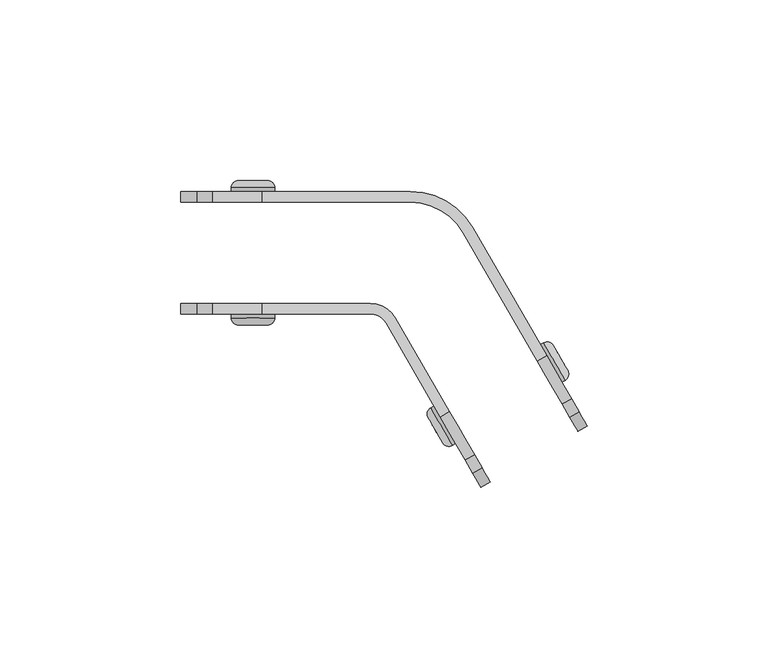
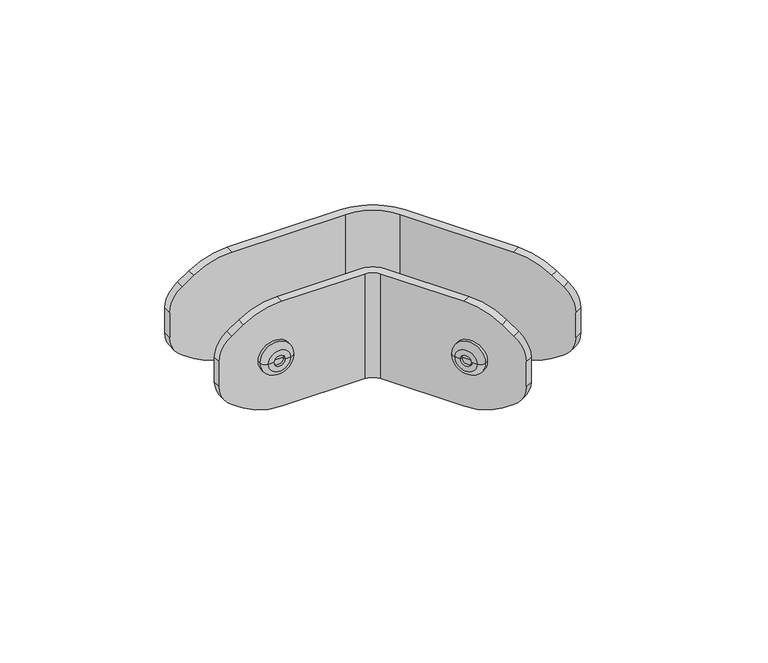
"""IFC4 building model written with IfcOpenShell, lengths in millimetres: furniture geometry, DBLTD_Sixteen3_PrivacyScreens_Artus_Bracket : 120° Corner Link."""

import ifcopenshell
import ifcopenshell.guid

model = None  # the IFC model being written
_history = None  # IfcOwnerHistory: only IFC2X3 demands one
_inside = {}  # id of a spatial element -> (the spatial element, [elements in it])
_under = {}  # id of a project, library or spatial element -> (it, [spatial elements below it])
_declared = {}  # id of a project -> (the project, [libraries it declares])
_typed = {}  # id of a type object -> (the type object, [elements of that type])
_made_of = {}  # id of a material, layer set ... -> (it, [elements and type objects made of it])


def new_model(schema):
    """Start an empty IFC model of exactly this schema.

    Asked for "IFC4X3", IfcOpenShell would pick the latest addendum, in which some entities
    have other attributes; the version numbers below select the first issue.
    IFC2X3 requires an IfcOwnerHistory on every rooted entity: one is made here for all.
    """
    global model, _history
    if schema == "IFC4X3":
        model = ifcopenshell.file(schema_version=(4, 3, 0, 0))
    else:
        model = ifcopenshell.file(schema=schema)
    _inside.clear()
    _under.clear()
    _declared.clear()
    _typed.clear()
    _made_of.clear()
    _history = None
    if model.schema == "IFC2X3":
        org = make("IfcOrganization", Name="unknown")
        user = make(
            "IfcPersonAndOrganization",
            ThePerson=make("IfcPerson", FamilyName="unknown"),
            TheOrganization=org,
        )
        app = make(
            "IfcApplication",
            ApplicationDeveloper=org,
            Version="unknown",
            ApplicationFullName="unknown",
            ApplicationIdentifier="unknown",
        )
        _history = make(
            "IfcOwnerHistory",
            OwningUser=user,
            OwningApplication=app,
            ChangeAction="ADDED",
            CreationDate=0,
        )
    return model


def make(cls, **values):
    """One entity of the class cls with the attributes given. An attribute that is None is left unset."""
    return model.create_entity(
        cls, **{name: value for name, value in values.items() if value is not None}
    )


def rooted(cls, **values):
    """An entity with a GlobalId (a new one), such as an element, a storey or a relation."""
    return make(cls, GlobalId=ifcopenshell.guid.new(), OwnerHistory=_history, **values)


def si_unit(unit_type, name, prefix=None):
    """IfcSIUnit, for example si_unit("LENGTHUNIT", "METRE", prefix="MILLI")."""
    return make("IfcSIUnit", UnitType=unit_type, Prefix=prefix, Name=name)


def assignment(units):
    """IfcUnitAssignment: the units of a project."""
    return None if units is None else make("IfcUnitAssignment", Units=units)


def point(xyz):
    """IfcCartesianPoint."""
    return None if xyz is None else make("IfcCartesianPoint", Coordinates=xyz)


def direction(xyz):
    """IfcDirection."""
    return None if xyz is None else make("IfcDirection", DirectionRatios=xyz)


def frame(location, z_axis=None, x_axis=None):
    """IfcAxis2Placement3D, a coordinate frame: its origin and axes. An axis left out is left unset."""
    return make(
        "IfcAxis2Placement3D",
        Location=point(location),
        Axis=direction(z_axis),
        RefDirection=direction(x_axis),
    )


def origin():
    """The frame at (0, 0, 0) with its axes left unset."""
    return frame((0.0, 0.0, 0.0))


def place(relative_to, where):
    """IfcLocalPlacement: puts the frame where relative to a parent placement (None: the world)."""
    return make(
        "IfcLocalPlacement", PlacementRelTo=relative_to, RelativePlacement=where
    )


def context(
    kind, dimensions, precision=None, world=None, true_north=None, identifier=None
):
    """IfcGeometricRepresentationContext, for example the 3D "Model" context."""
    return make(
        "IfcGeometricRepresentationContext",
        ContextIdentifier=identifier,
        ContextType=kind,
        CoordinateSpaceDimension=dimensions,
        Precision=precision,
        WorldCoordinateSystem=world,
        TrueNorth=true_north,
    )


def project(units=None, contexts=None):
    """IfcProject with its units and contexts."""
    return rooted(
        "IfcProject",
        Name="project",
        RepresentationContexts=contexts,
        UnitsInContext=assignment(units),
    )


def spatial(cls, under=None, at=None, **own):
    """A site, building, storey or space (cls), placed at a placement, below another one or the project."""
    s = rooted(cls, ObjectPlacement=at, **own)
    if under is not None:
        _under.setdefault(under.id(), (under, []))[1].append(s)
    return s


def polyline(points):
    """IfcPolyline through the points."""
    return make("IfcPolyline", Points=[point(p) for p in points])


def circle_curve(where, radius):
    """IfcCircle in the frame where."""
    return make("IfcCircle", Position=where, Radius=radius)


def ellipse_curve(where, semi_axis1, semi_axis2):
    """IfcEllipse in the frame where."""
    return make(
        "IfcEllipse", Position=where, SemiAxis1=semi_axis1, SemiAxis2=semi_axis2
    )


def trimmed(basis, trim1, trim2, sense, master):
    """IfcTrimmedCurve: the piece of a basis curve between two trims."""
    return make(
        "IfcTrimmedCurve",
        BasisCurve=basis,
        Trim1=trim1,
        Trim2=trim2,
        SenseAgreement=sense,
        MasterRepresentation=master,
    )


def shape(context_of_items, identifier, shape_type, items):
    """IfcShapeRepresentation: the items that make up one representation, for example the "Body"."""
    return make(
        "IfcShapeRepresentation",
        ContextOfItems=context_of_items,
        RepresentationIdentifier=identifier,
        RepresentationType=shape_type,
        Items=items,
    )


def source(mapping_origin, context_of_items, identifier, shape_type, items):
    """IfcRepresentationMap: a shape defined once, which mapped items show again and again."""
    return make(
        "IfcRepresentationMap",
        MappingOrigin=mapping_origin,
        MappedRepresentation=shape(context_of_items, identifier, shape_type, items),
    )


def transform(
    local_origin,
    x_axis=None,
    y_axis=None,
    z_axis=None,
    scale=None,
    scale2=None,
    scale3=None,
    uniform=True,
):
    """IfcCartesianTransformationOperator3D, or its non-uniform kind. x_axis, y_axis, z_axis: its Axis1, 2, 3."""
    if uniform:
        return make(
            "IfcCartesianTransformationOperator3D",
            Axis1=direction(x_axis),
            Axis2=direction(y_axis),
            LocalOrigin=point(local_origin),
            Scale=scale,
            Axis3=direction(z_axis),
        )
    return make(
        "IfcCartesianTransformationOperator3DnonUniform",
        Axis1=direction(x_axis),
        Axis2=direction(y_axis),
        LocalOrigin=point(local_origin),
        Scale=scale,
        Axis3=direction(z_axis),
        Scale2=scale2,
        Scale3=scale3,
    )


def mapped(mapping_source, mapping_target):
    """IfcMappedItem: shows the shape of a source again, moved by a transform."""
    return make(
        "IfcMappedItem", MappingSource=mapping_source, MappingTarget=mapping_target
    )


def made_of(thing, what):
    """Note that an element or type object is made of a material, layer set ...; save() writes the relation."""
    if what is not None:
        _made_of.setdefault(what.id(), (what, []))[1].append(thing)
    return thing


def element(
    cls,
    number,
    at=None,
    inside=None,
    cuts=None,
    type_object=None,
    material=None,
    context=None,
    identifier="Body",
    shape_type=None,
    held_by="IfcProductDefinitionShape",
    body=None,
    shapes=None,
    **own,
):
    """One element of the class cls, such as IfcWall. Its Tag is "e" and its number.

    at: its placement. inside: the storey or other place that contains it. cuts: it is an
    opening in that element (IfcRelVoidsElement). A single representation is given by context,
    identifier, shape_type and body (its items); several are given by shapes. held_by: the class
    of the entity that holds the representations. save() writes the other relations.
    """
    e = rooted(cls, Tag="e%d" % number, ObjectPlacement=at, **own)
    if body is not None:
        shapes = [shape(context, identifier, shape_type, body)]
    if shapes is not None:
        e.Representation = make(held_by, Representations=shapes)
    if inside is not None:
        _inside.setdefault(inside.id(), (inside, []))[1].append(e)
    if cuts is not None:
        rooted(
            "IfcRelVoidsElement", RelatingBuildingElement=cuts, RelatedOpeningElement=e
        )
    if type_object is not None:
        _typed.setdefault(type_object.id(), (type_object, []))[1].append(e)
    return made_of(e, material)


def aggregate(whole, parts):
    """IfcRelAggregates: a whole, such as a stair, and the parts it consists of."""
    return rooted("IfcRelAggregates", RelatingObject=whole, RelatedObjects=parts)


def save(model, path):
    """Write the relations noted so far, then the file.

    IfcRelAggregates (storeys below a building ...), IfcRelContainedInSpatialStructure (elements
    in a storey), IfcRelDefinesByType, IfcRelAssociatesMaterial and IfcRelDeclares: one each for
    every whole, place, type object, material and project.
    """
    for whole, parts in _under.values():
        aggregate(whole, parts)
    for where, things in _inside.values():
        rooted(
            "IfcRelContainedInSpatialStructure",
            RelatedElements=things,
            RelatingStructure=where,
        )
    for kind, things in _typed.values():
        rooted("IfcRelDefinesByType", RelatedObjects=things, RelatingType=kind)
    for what, things in _made_of.values():
        rooted("IfcRelAssociatesMaterial", RelatedObjects=things, RelatingMaterial=what)
    for by, libraries in _declared.values():
        rooted("IfcRelDeclares", RelatingContext=by, RelatedDefinitions=libraries)
    model.write(path)


def plane_surface(at):
    """IfcPlane: the flat surface through the origin of the frame at, square to its z axis."""
    return make("IfcPlane", Position=at)


def cylinder_surface(at, radius):
    """IfcCylindricalSurface: all points at the distance radius from the z axis of the frame at."""
    return make("IfcCylindricalSurface", Position=at, Radius=radius)


def revolved_surface(curve, axis_point, axis_direction):
    """IfcSurfaceOfRevolution: the curve turned about the line through axis_point along axis_direction."""
    return make(
        "IfcSurfaceOfRevolution",
        SweptCurve=make("IfcArbitraryOpenProfileDef", ProfileType="CURVE", Curve=curve),
        AxisPosition=make("IfcAxis1Placement", Location=point(axis_point), Axis=direction(axis_direction)),
    )


def advanced_brep(points, edges, surfaces, faces):
    """IfcAdvancedBrep: a solid bounded by faces that lie on surfaces and meet in shared edges.

    An edge is (start, end): straight between two places in points (the first is 0);
    or (start, end, curve); or (start, end, curve, False) where it runs against its curve.
    A face is (place in surfaces, loops), or (place, loops, False) where it looks against
    its surface's normal. A loop lists edges by number (the first is 1), with a minus sign
    where the edge is run from its end to its start. The first loop is the outer one.
    """
    corners = [point(p) for p in points]
    vertices = [make("IfcVertexPoint", VertexGeometry=c) for c in corners]
    made = []
    for start, end, *more in edges:
        made.append(
            make(
                "IfcEdgeCurve",
                EdgeStart=vertices[start],
                EdgeEnd=vertices[end],
                EdgeGeometry=more[0] if more else make("IfcPolyline", Points=[corners[start], corners[end]]),
                SameSense=more[1] if len(more) > 1 else True,
            )
        )
    hull = []
    for where, loops, *sense in faces:
        bounds = []
        for j, loop in enumerate(loops):
            ring = [make("IfcOrientedEdge", EdgeElement=made[abs(k) - 1], Orientation=k > 0) for k in loop]
            bounds.append(
                make(
                    "IfcFaceOuterBound" if j == 0 else "IfcFaceBound",
                    Bound=make("IfcEdgeLoop", EdgeList=ring),
                    Orientation=True,
                )
            )
        hull.append(make("IfcAdvancedFace", Bounds=bounds, FaceSurface=surfaces[where], SameSense=sense[0] if sense else True))
    return make("IfcAdvancedBrep", Outer=make("IfcClosedShell", CfsFaces=hull))


def furniture_fb40049b(model_context):
    return source(origin(), model_context, "Body", "AdvancedBrep", [
        advanced_brep(
        [(26.5, -845.4352448, 100.0), (27.3537451, -844.9423348, 100.0), (33.3537451, -855.3346397, 100.0), (32.5, -855.8275496, 100.0), (29.5, -850.6313972, 100.0), (30.2320508, -847.8993464, 100.0), (31.2320508, -849.6313972, 100.0), (32.2320508, -851.363448, 100.0), (31.0980762, -847.3993464, 100.0), (33.0980762, -850.863448, 100.0), (30.1051663, -845.6795759, 100.0), (34.0909862, -852.5832185, 100.0)],
        [
            (0, 1),
            (1, 2, circle_curve(frame((30.3537451, -850.1384873, 100.0), z_axis=(-0.866025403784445, -0.49999999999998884, 0.0), x_axis=(0.49999999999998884, -0.866025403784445, 0.0)), 6.0)),
            (2, 3),
            (3, 0, circle_curve(frame((29.5, -850.6313972, 100.0), z_axis=(0.866025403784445, 0.49999999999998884, 0.0), x_axis=(0.49999999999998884, -0.866025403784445, 0.0)), 6.0)),
            (2, 1, circle_curve(frame((30.3537451, -850.1384873, 100.0), z_axis=(-0.866025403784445, -0.49999999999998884, 0.0), x_axis=(0.49999999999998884, -0.866025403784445, 0.0)), 6.0)),
            (0, 3, circle_curve(frame((29.5, -850.6313972, 100.0), z_axis=(0.866025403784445, 0.49999999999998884, 0.0), x_axis=(0.49999999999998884, -0.866025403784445, 0.0)), 6.0)),
            (4, 0),
            (3, 4),
            (5, 6),
            (6, 7),
            (7, 5, circle_curve(frame((31.2320508, -849.6313972, 100.0), z_axis=(0.866025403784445, 0.49999999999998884, 0.0), x_axis=(0.49999999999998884, -0.866025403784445, 0.0)), 2.0)),
            (5, 7, circle_curve(frame((31.2320508, -849.6313972, 100.0), z_axis=(0.866025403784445, 0.49999999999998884, 0.0), x_axis=(0.49999999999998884, -0.866025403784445, 0.0)), 2.0)),
            (8, 5),
            (7, 9),
            (9, 8, circle_curve(frame((32.0980762, -849.1313972, 100.0), z_axis=(0.866025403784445, 0.49999999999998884, 0.0), x_axis=(0.49999999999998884, -0.866025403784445, 0.0)), 2.0)),
            (8, 9, circle_curve(frame((32.0980762, -849.1313972, 100.0), z_axis=(0.866025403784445, 0.49999999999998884, 0.0), x_axis=(0.49999999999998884, -0.866025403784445, 0.0)), 2.0)),
            (10, 8),
            (9, 11),
            (11, 10, circle_curve(frame((32.0980762, -849.1313972, 100.0), z_axis=(0.866025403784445, 0.49999999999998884, 0.0), x_axis=(0.49999999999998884, -0.866025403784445, 0.0)), 3.9858199)),
            (10, 11, circle_curve(frame((32.0980762, -849.1313972, 100.0), z_axis=(0.866025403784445, 0.49999999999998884, 0.0), x_axis=(0.49999999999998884, -0.866025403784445, 0.0)), 3.9858199)),
            (1, 10, circle_curve(frame((28.3608351, -846.686666, 100.0), z_axis=(0.0, 0.0, -1.0), x_axis=(0.4999999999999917, -0.8660254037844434, 0.0)), 2.0141801)),
            (11, 2, circle_curve(frame((32.346655, -853.5903085, 100.0), z_axis=(0.0, 0.0, -1.0), x_axis=(-0.499999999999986, 0.8660254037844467, 0.0)), 2.0141801)),
        ],
        [
            cylinder_surface(frame((30.7336307, -849.9191602, 100.0), z_axis=(-0.866025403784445, -0.49999999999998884, 0.0), x_axis=(0.49999999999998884, -0.866025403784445, 0.0)), 6.0),
            plane_surface(frame((29.5, -850.6313972, 100.0), z_axis=(-0.866025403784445, -0.49999999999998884, 0.0), x_axis=(0.49999999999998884, -0.866025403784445, 0.0))),
            plane_surface(frame((31.2320508, -849.6313972, 100.0), z_axis=(0.866025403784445, 0.49999999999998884, 0.0), x_axis=(0.49999999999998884, -0.866025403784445, 0.0))),
            revolved_surface(polyline([(32.23205080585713, -851.3634480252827, 100.0), (33.09807621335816, -850.8634480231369, 100.0)]), (30.7336307, -849.9191602, 100.0), (-0.866025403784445, -0.49999999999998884, 0.0)),
            plane_surface(frame((32.0980762, -849.1313972, 100.0), z_axis=(0.866025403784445, 0.49999999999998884, 0.0), x_axis=(0.49999999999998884, -0.866025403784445, 0.0))),
            revolved_surface(trimmed(ellipse_curve(frame((32.346655, -853.5903085, 100.0), z_axis=(0.0, 0.0, -1.0), x_axis=(-0.499999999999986, 0.8660254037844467, 0.0)), 2.0141801, 2.0141801), [point((34.0909862, -852.5832185, 100.0))], [point((33.3537451, -855.3346397, 100.0))], True, "CARTESIAN"), (30.7336307, -849.9191602, 100.0), (-0.866025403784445, -0.49999999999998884, 0.0)),
        ],
        [
            (0, [[1, 2, 3, 4]]),
            (0, [[-3, 5, -1, 6]]),
            (1, [[7, -4, 8]]),
            (1, [[-8, -6, -7]]),
            (2, [[9, 10, 11]]),
            (2, [[-10, -9, 12]]),
            (3, [[13, -11, 14, 15]]),
            (3, [[-14, -12, -13, 16]]),
            (4, [[17, -15, 18, 19]]),
            (4, [[-18, -16, -17, 20]]),
            (5, [[21, -19, 22, -2]]),
            (5, [[-22, -20, -21, -5]]),
        ],
    ),
        advanced_brep(
        [(-3.7986088, -862.9281547, 100.0), (-2.9448637, -862.4352448, 100.0), (3.0551363, -872.8275496, 100.0), (2.2013912, -873.3204596, 100.0), (0.0551363, -867.6313972, 100.0), (-1.6769145, -868.6313972, 100.0), (-2.6769145, -866.8993464, 100.0), (-0.6769145, -870.363448, 100.0), (-3.5429399, -867.3993464, 100.0), (-1.5429399, -870.863448, 100.0), (-4.5358499, -865.6795759, 100.0), (-0.55003, -872.5832185, 100.0)],
        [
            (0, 1),
            (1, 2, circle_curve(frame((0.0551363, -867.6313972, 100.0), z_axis=(-0.8660254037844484, -0.4999999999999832, 0.0), x_axis=(0.4999999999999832, -0.8660254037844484, 0.0)), 6.0)),
            (2, 3),
            (3, 0, circle_curve(frame((-0.7986088, -868.1243072, 100.0), z_axis=(0.8660254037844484, 0.4999999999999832, 0.0), x_axis=(0.4999999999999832, -0.8660254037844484, 0.0)), 6.0)),
            (2, 1, circle_curve(frame((0.0551363, -867.6313972, 100.0), z_axis=(-0.8660254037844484, -0.4999999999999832, 0.0), x_axis=(0.4999999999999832, -0.8660254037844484, 0.0)), 6.0)),
            (0, 3, circle_curve(frame((-0.7986088, -868.1243072, 100.0), z_axis=(0.8660254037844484, 0.4999999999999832, 0.0), x_axis=(0.4999999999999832, -0.8660254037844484, 0.0)), 6.0)),
            (1, 4),
            (4, 2),
            (5, 6),
            (6, 7, circle_curve(frame((-1.6769145, -868.6313972, 100.0), z_axis=(-0.8660254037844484, -0.4999999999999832, 0.0), x_axis=(0.4999999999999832, -0.8660254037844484, 0.0)), 2.0)),
            (7, 5),
            (7, 6, circle_curve(frame((-1.6769145, -868.6313972, 100.0), z_axis=(-0.8660254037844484, -0.4999999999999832, 0.0), x_axis=(0.4999999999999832, -0.8660254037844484, 0.0)), 2.0)),
            (6, 8),
            (8, 9, circle_curve(frame((-2.5429399, -869.1313972, 100.0), z_axis=(-0.8660254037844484, -0.4999999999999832, 0.0), x_axis=(0.4999999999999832, -0.8660254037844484, 0.0)), 2.0)),
            (9, 7),
            (9, 8, circle_curve(frame((-2.5429399, -869.1313972, 100.0), z_axis=(-0.8660254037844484, -0.4999999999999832, 0.0), x_axis=(0.4999999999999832, -0.8660254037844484, 0.0)), 2.0)),
            (8, 10),
            (10, 11, circle_curve(frame((-2.5429399, -869.1313972, 100.0), z_axis=(-0.8660254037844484, -0.4999999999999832, 0.0), x_axis=(0.4999999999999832, -0.8660254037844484, 0.0)), 3.9858199)),
            (11, 9),
            (11, 10, circle_curve(frame((-2.5429399, -869.1313972, 100.0), z_axis=(-0.8660254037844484, -0.4999999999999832, 0.0), x_axis=(0.4999999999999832, -0.8660254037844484, 0.0)), 3.9858199)),
            (10, 0, circle_curve(frame((-2.7915187, -864.6724859, 100.0), z_axis=(0.0, 0.0, -1.0), x_axis=(0.49999999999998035, -0.86602540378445, 0.0)), 2.0141801)),
            (3, 11, circle_curve(frame((1.1943011, -871.5761284, 100.0), z_axis=(0.0, 0.0, -1.0), x_axis=(-0.499999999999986, 0.8660254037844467, 0.0)), 2.0141801)),
        ],
        [
            cylinder_surface(frame((-1.1784944, -868.3436342, 100.0), z_axis=(-0.8660254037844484, -0.4999999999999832, 0.0), x_axis=(0.4999999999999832, -0.8660254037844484, 0.0)), 6.0),
            plane_surface(frame((0.0551363, -867.6313972, 100.0), z_axis=(0.8660254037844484, 0.4999999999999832, 0.0), x_axis=(0.4999999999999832, -0.8660254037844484, 0.0))),
            plane_surface(frame((-1.6769145, -868.6313972, 100.0), z_axis=(-0.8660254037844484, -0.4999999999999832, 0.0), x_axis=(0.4999999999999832, -0.8660254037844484, 0.0))),
            revolved_surface(polyline([(-1.54293991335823, -870.8634479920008, 100.0), (-0.6769145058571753, -870.3634479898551, 100.0)]), (-1.1784944, -868.3436342, 100.0), (-0.8660254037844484, -0.4999999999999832, 0.0)),
            plane_surface(frame((-2.5429399, -869.1313972, 100.0), z_axis=(-0.8660254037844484, -0.4999999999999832, 0.0), x_axis=(0.4999999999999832, -0.8660254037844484, 0.0))),
            revolved_surface(trimmed(ellipse_curve(frame((1.1943011, -871.5761284, 100.0), z_axis=(0.0, 0.0, -1.0), x_axis=(-0.499999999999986, 0.8660254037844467, 0.0)), 2.0141801, 2.0141801), [point((2.2013912, -873.3204596, 100.0))], [point((-0.55003, -872.5832185, 100.0))], True, "CARTESIAN"), (-1.1784944, -868.3436342, 100.0), (-0.8660254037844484, -0.4999999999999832, 0.0)),
        ],
        [
            (0, [[1, 2, 3, 4]]),
            (0, [[-3, 5, -1, 6]]),
            (1, [[7, 8, -2]]),
            (1, [[-8, -7, -5]]),
            (2, [[9, 10, 11]]),
            (2, [[-11, 12, -9]]),
            (3, [[13, 14, 15, -10]]),
            (3, [[-15, 16, -13, -12]]),
            (4, [[17, 18, 19, -14]]),
            (4, [[-19, 20, -17, -16]]),
            (5, [[21, -4, 22, -18]]),
            (5, [[-22, -6, -21, -20]]),
        ],
    ),
        advanced_brep(
        [(-47.0, -802.0141801, 100.0), (-47.0, -803.0, 100.0), (-59.0, -803.0, 100.0), (-59.0, -802.0141801, 100.0), (-53.0, -803.0, 100.0), (-53.0, -801.0, 100.0), (-51.0, -801.0, 100.0), (-55.0, -801.0, 100.0), (-51.0, -800.0, 100.0), (-55.0, -800.0, 100.0), (-49.0141801, -800.0, 100.0), (-56.9858199, -800.0, 100.0)],
        [
            (0, 1),
            (1, 2, circle_curve(frame((-53.0, -803.0, 100.0), z_axis=(0.0, 1.0, 0.0), x_axis=(-1.0, 0.0, 0.0)), 6.0)),
            (2, 3),
            (3, 0, circle_curve(frame((-53.0, -802.0141801, 100.0), z_axis=(0.0, -1.0, 0.0), x_axis=(-1.0, 0.0, 0.0)), 6.0)),
            (2, 1, circle_curve(frame((-53.0, -803.0, 100.0), z_axis=(0.0, 1.0, 0.0), x_axis=(-1.0, 0.0, 0.0)), 6.0)),
            (0, 3, circle_curve(frame((-53.0, -802.0141801, 100.0), z_axis=(0.0, -1.0, 0.0), x_axis=(-1.0, 0.0, 0.0)), 6.0)),
            (1, 4),
            (4, 2),
            (5, 6),
            (6, 7, circle_curve(frame((-53.0, -801.0, 100.0), z_axis=(0.0, 1.0, 0.0), x_axis=(-1.0, 0.0, 0.0)), 2.0)),
            (7, 5),
            (7, 6, circle_curve(frame((-53.0, -801.0, 100.0), z_axis=(0.0, 1.0, 0.0), x_axis=(-1.0, 0.0, 0.0)), 2.0)),
            (6, 8),
            (8, 9, circle_curve(frame((-53.0, -800.0, 100.0), z_axis=(0.0, 1.0, 0.0), x_axis=(-1.0, 0.0, 0.0)), 2.0)),
            (9, 7),
            (9, 8, circle_curve(frame((-53.0, -800.0, 100.0), z_axis=(0.0, 1.0, 0.0), x_axis=(-1.0, 0.0, 0.0)), 2.0)),
            (8, 10),
            (10, 11, circle_curve(frame((-53.0, -800.0, 100.0), z_axis=(0.0, 1.0, 0.0), x_axis=(-1.0, 0.0, 0.0)), 3.9858199)),
            (11, 9),
            (11, 10, circle_curve(frame((-53.0, -800.0, 100.0), z_axis=(0.0, 1.0, 0.0), x_axis=(-1.0, 0.0, 0.0)), 3.9858199)),
            (10, 0, circle_curve(frame((-49.0141801, -802.0141801, 100.0), z_axis=(0.0, 0.0, -1.0), x_axis=(-1.0, 0.0, 0.0)), 2.0141801)),
            (3, 11, circle_curve(frame((-56.9858199, -802.0141801, 100.0), z_axis=(0.0, 0.0, -1.0), x_axis=(1.0, 0.0, 0.0)), 2.0141801)),
        ],
        [
            cylinder_surface(frame((-53.0, -801.575526, 100.0), z_axis=(0.0, 1.0, 0.0), x_axis=(-1.0, 0.0, 0.0)), 6.0),
            plane_surface(frame((-53.0, -803.0, 100.0), z_axis=(0.0, -1.0, 0.0), x_axis=(-1.0, 0.0, 0.0))),
            plane_surface(frame((-53.0, -801.0, 100.0), z_axis=(0.0, 1.0, 0.0), x_axis=(-1.0, 0.0, 0.0))),
            revolved_surface(polyline([(-55.0, -800.0, 100.0), (-55.0, -801.0, 100.0)]), (-53.0, -801.575526, 100.0), (0.0, 1.0, 0.0)),
            plane_surface(frame((-53.0, -800.0, 100.0), z_axis=(0.0, 1.0, 0.0), x_axis=(-1.0, 0.0, 0.0))),
            revolved_surface(trimmed(ellipse_curve(frame((-56.9858199, -802.0141801, 100.0), z_axis=(0.0, 0.0, -1.0), x_axis=(1.0, 0.0, 0.0)), 2.0141801, 2.0141801), [point((-59.0, -802.0141801, 100.0))], [point((-56.9858199, -800.0, 100.0))], True, "CARTESIAN"), (-53.0, -801.575526, 100.0), (0.0, 1.0, 0.0)),
        ],
        [
            (0, [[1, 2, 3, 4]]),
            (0, [[-3, 5, -1, 6]]),
            (1, [[7, 8, -2]]),
            (1, [[-8, -7, -5]]),
            (2, [[9, 10, 11]]),
            (2, [[-11, 12, -9]]),
            (3, [[13, 14, 15, -10]]),
            (3, [[-15, 16, -13, -12]]),
            (4, [[17, 18, 19, -14]]),
            (4, [[-19, 20, -17, -16]]),
            (5, [[21, -4, 22, -18]]),
            (5, [[-22, -6, -21, -20]]),
        ],
    ),
        advanced_brep(
        [(-47.0, -837.0, 100.0), (-47.0, -837.9858199, 100.0), (-59.0, -837.9858199, 100.0), (-59.0, -837.0, 100.0), (-53.0, -837.0, 100.0), (-51.0, -839.0, 100.0), (-53.0, -839.0, 100.0), (-55.0, -839.0, 100.0), (-51.0, -840.0, 100.0), (-55.0, -840.0, 100.0), (-49.0141801, -840.0, 100.0), (-56.9858199, -840.0, 100.0)],
        [
            (0, 1),
            (1, 2, circle_curve(frame((-53.0, -837.9858199, 100.0), z_axis=(0.0, 1.0, 0.0), x_axis=(-1.0, 0.0, 0.0)), 6.0)),
            (2, 3),
            (3, 0, circle_curve(frame((-53.0, -837.0, 100.0), z_axis=(0.0, -1.0, 0.0), x_axis=(-1.0, 0.0, 0.0)), 6.0)),
            (2, 1, circle_curve(frame((-53.0, -837.9858199, 100.0), z_axis=(0.0, 1.0, 0.0), x_axis=(-1.0, 0.0, 0.0)), 6.0)),
            (0, 3, circle_curve(frame((-53.0, -837.0, 100.0), z_axis=(0.0, -1.0, 0.0), x_axis=(-1.0, 0.0, 0.0)), 6.0)),
            (4, 0),
            (3, 4),
            (5, 6),
            (6, 7),
            (7, 5, circle_curve(frame((-53.0, -839.0, 100.0), z_axis=(0.0, -1.0, 0.0), x_axis=(-1.0, 0.0, 0.0)), 2.0)),
            (5, 7, circle_curve(frame((-53.0, -839.0, 100.0), z_axis=(0.0, -1.0, 0.0), x_axis=(-1.0, 0.0, 0.0)), 2.0)),
            (8, 5),
            (7, 9),
            (9, 8, circle_curve(frame((-53.0, -840.0, 100.0), z_axis=(0.0, -1.0, 0.0), x_axis=(-1.0, 0.0, 0.0)), 2.0)),
            (8, 9, circle_curve(frame((-53.0, -840.0, 100.0), z_axis=(0.0, -1.0, 0.0), x_axis=(-1.0, 0.0, 0.0)), 2.0)),
            (10, 8),
            (9, 11),
            (11, 10, circle_curve(frame((-53.0, -840.0, 100.0), z_axis=(0.0, -1.0, 0.0), x_axis=(-1.0, 0.0, 0.0)), 3.9858199)),
            (10, 11, circle_curve(frame((-53.0, -840.0, 100.0), z_axis=(0.0, -1.0, 0.0), x_axis=(-1.0, 0.0, 0.0)), 3.9858199)),
            (1, 10, circle_curve(frame((-49.0141801, -837.9858199, 100.0), z_axis=(0.0, 0.0, -1.0), x_axis=(-1.0, 0.0, 0.0)), 2.0141801)),
            (11, 2, circle_curve(frame((-56.9858199, -837.9858199, 100.0), z_axis=(0.0, 0.0, -1.0), x_axis=(1.0, 0.0, 0.0)), 2.0141801)),
        ],
        [
            cylinder_surface(frame((-53.0, -838.424474, 100.0), z_axis=(0.0, 1.0, 0.0), x_axis=(-1.0, 0.0, 0.0)), 6.0),
            plane_surface(frame((-53.0, -837.0, 100.0), z_axis=(0.0, 1.0, 0.0), x_axis=(-1.0, 0.0, 0.0))),
            plane_surface(frame((-53.0, -839.0, 100.0), z_axis=(0.0, -1.0, 0.0), x_axis=(-1.0, 0.0, 0.0))),
            revolved_surface(polyline([(-55.0, -839.0, 100.0), (-55.0, -840.0, 100.0)]), (-53.0, -838.424474, 100.0), (0.0, 1.0, 0.0)),
            plane_surface(frame((-53.0, -840.0, 100.0), z_axis=(0.0, -1.0, 0.0), x_axis=(-1.0, 0.0, 0.0))),
            revolved_surface(trimmed(ellipse_curve(frame((-56.9858199, -837.9858199, 100.0), z_axis=(0.0, 0.0, -1.0), x_axis=(1.0, 0.0, 0.0)), 2.0141801, 2.0141801), [point((-56.9858199, -840.0, 100.0))], [point((-59.0, -837.9858199, 100.0))], True, "CARTESIAN"), (-53.0, -838.424474, 100.0), (0.0, 1.0, 0.0)),
        ],
        [
            (0, [[1, 2, 3, 4]]),
            (0, [[-3, 5, -1, 6]]),
            (1, [[7, -4, 8]]),
            (1, [[-8, -6, -7]]),
            (2, [[9, 10, 11]]),
            (2, [[-10, -9, 12]]),
            (3, [[13, -11, 14, 15]]),
            (3, [[-14, -12, -13, 16]]),
            (4, [[17, -15, 18, 19]]),
            (4, [[-18, -16, -17, 20]]),
            (5, [[21, -19, 22, -2]]),
            (5, [[-22, -20, -21, -5]]),
        ],
    ),
        advanced_brep(
        [(-9.5470054, -803.0, 120.0), (-50.4306091, -803.0, 120.0), (-50.4306091, -806.0, 120.0), (-9.5470054, -806.0, 120.0), (5.1754265, -814.5, 120.0), (25.6172283, -849.9062394, 120.0), (28.2153045, -848.4062394, 120.0), (7.7735027, -813.0, 120.0), (-9.5470054, -806.0, 80.0), (-50.4306091, -806.0, 80.0), (-50.4306091, -803.0, 80.0), (-9.5470054, -803.0, 80.0), (7.7735027, -813.0, 80.0), (28.2153045, -848.4062394, 80.0), (25.6172283, -849.9062394, 80.0), (5.1754265, -814.5, 80.0), (-73.0, -806.0, 104.6481624), (-73.0, -803.0, 104.6481624), (-73.0, -803.0, 95.3518376), (-73.0, -806.0, 95.3518376), (-64.298114, -803.0, 84.1987426), (-68.547002, -803.0, 87.0313346), (-68.547002, -803.0, 112.9686654), (-64.298114, -803.0, 115.8012574), (35.149057, -860.4158509, 115.8012574), (37.273501, -864.0954959, 112.9686654), (39.5, -867.9519053, 104.6481624), (39.5, -867.9519053, 95.3518376), (37.273501, -864.0954959, 87.0313346), (35.149057, -860.4158509, 84.1987426), (36.9019238, -869.4519053, 104.6481624), (36.9019238, -869.4519053, 95.3518376), (32.5509808, -861.9158509, 84.1987426), (34.6754248, -865.5954959, 87.0313346), (34.6754248, -865.5954959, 112.9686654), (32.5509808, -861.9158509, 115.8012574), (-64.298114, -806.0, 115.8012574), (-68.547002, -806.0, 112.9686654), (-68.547002, -806.0, 87.0313346), (-64.298114, -806.0, 84.1987426)],
        [
            (0, 1),
            (1, 2),
            (2, 3),
            (3, 4, circle_curve(frame((-9.5470054, -823.0, 120.0), z_axis=(0.0, 0.0, -1.0), x_axis=(1.0, 0.0, 0.0)), 17.0)),
            (4, 5),
            (5, 6),
            (6, 7),
            (7, 0, circle_curve(frame((-9.5470054, -823.0, 120.0), z_axis=(0.0, 0.0, 1.0), x_axis=(1.0, 0.0, 0.0)), 20.0)),
            (8, 9),
            (9, 10),
            (10, 11),
            (11, 12, circle_curve(frame((-9.5470054, -823.0, 80.0), z_axis=(0.0, 0.0, -1.0), x_axis=(1.0, 0.0, 0.0)), 20.0)),
            (12, 13),
            (13, 14),
            (14, 15),
            (15, 8, circle_curve(frame((-9.5470054, -823.0, 80.0), z_axis=(0.0, 0.0, 1.0), x_axis=(1.0, 0.0, 0.0)), 17.0)),
            (16, 17),
            (17, 18),
            (18, 19),
            (19, 16),
            (10, 20, circle_curve(frame((-50.4306091, -803.0, 105.0), z_axis=(0.0, 1.0, 0.0), x_axis=(1.0, 0.0, 0.0)), 25.0)),
            (20, 21),
            (21, 18, circle_curve(frame((-63.0, -803.0, 95.3518376), z_axis=(0.0, 1.0, 0.0), x_axis=(1.0, 0.0, 0.0)), 10.0)),
            (17, 22, circle_curve(frame((-63.0, -803.0, 104.6481624), z_axis=(0.0, 1.0, 0.0), x_axis=(1.0, 0.0, 0.0)), 10.0)),
            (22, 23),
            (23, 1, circle_curve(frame((-50.4306091, -803.0, 95.0), z_axis=(0.0, 1.0, 0.0), x_axis=(1.0, 0.0, 0.0)), 25.0)),
            (0, 11),
            (7, 12),
            (6, 24, circle_curve(frame((28.2153045, -848.4062394, 95.0), z_axis=(0.8660254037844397, 0.4999999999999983, 0.0), x_axis=(-0.4999999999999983, 0.8660254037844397, 0.0)), 25.0)),
            (24, 25),
            (25, 26, circle_curve(frame((34.5, -859.2916512, 104.6481624), z_axis=(0.8660254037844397, 0.4999999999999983, 0.0), x_axis=(-0.4999999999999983, 0.8660254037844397, 0.0)), 10.0)),
            (26, 27),
            (27, 28, circle_curve(frame((34.5, -859.2916512, 95.3518376), z_axis=(0.8660254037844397, 0.4999999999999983, 0.0), x_axis=(-0.4999999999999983, 0.8660254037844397, 0.0)), 10.0)),
            (28, 29),
            (29, 13, circle_curve(frame((28.2153045, -848.4062394, 105.0), z_axis=(0.8660254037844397, 0.4999999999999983, 0.0), x_axis=(-0.4999999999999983, 0.8660254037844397, 0.0)), 25.0)),
            (26, 30),
            (30, 31),
            (31, 27),
            (14, 32, circle_curve(frame((25.6172283, -849.9062394, 105.0), z_axis=(-0.8660254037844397, -0.4999999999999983, 0.0), x_axis=(-0.4999999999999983, 0.8660254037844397, 0.0)), 25.0)),
            (32, 33),
            (33, 31, circle_curve(frame((31.9019238, -860.7916512, 95.3518376), z_axis=(-0.8660254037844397, -0.4999999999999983, 0.0), x_axis=(-0.4999999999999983, 0.8660254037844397, 0.0)), 10.0)),
            (30, 34, circle_curve(frame((31.9019238, -860.7916512, 104.6481624), z_axis=(-0.8660254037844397, -0.4999999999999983, 0.0), x_axis=(-0.4999999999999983, 0.8660254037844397, 0.0)), 10.0)),
            (34, 35),
            (35, 5, circle_curve(frame((25.6172283, -849.9062394, 95.0), z_axis=(-0.8660254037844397, -0.4999999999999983, 0.0), x_axis=(-0.4999999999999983, 0.8660254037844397, 0.0)), 25.0)),
            (4, 15),
            (3, 8),
            (2, 36, circle_curve(frame((-50.4306091, -806.0, 95.0), z_axis=(0.0, -1.0, 0.0), x_axis=(1.0, 0.0, 0.0)), 25.0)),
            (36, 37),
            (37, 16, circle_curve(frame((-63.0, -806.0, 104.6481624), z_axis=(0.0, -1.0, 0.0), x_axis=(1.0, 0.0, 0.0)), 10.0)),
            (19, 38, circle_curve(frame((-63.0, -806.0, 95.3518376), z_axis=(0.0, -1.0, 0.0), x_axis=(1.0, 0.0, 0.0)), 10.0)),
            (38, 39),
            (39, 9, circle_curve(frame((-50.4306091, -806.0, 105.0), z_axis=(0.0, -1.0, 0.0), x_axis=(1.0, 0.0, 0.0)), 25.0)),
            (39, 20),
            (38, 21),
            (37, 22),
            (36, 23),
            (25, 34),
            (24, 35),
            (29, 32),
            (28, 33),
        ],
        [
            plane_surface(frame((-73.0, -806.0, 120.0), z_axis=(0.0, 0.0, 1.0), x_axis=(0.0, 1.0, 0.0))),
            plane_surface(frame((-73.0, -806.0, 80.0), z_axis=(0.0, 0.0, -1.0), x_axis=(0.0, -1.0, 0.0))),
            plane_surface(frame((-73.0, -806.0, 120.0), z_axis=(-1.0, 0.0, 0.0), x_axis=(0.0, 0.0, -1.0))),
            plane_surface(frame((-73.0, -803.0, 120.0), z_axis=(0.0, 1.0, 0.0), x_axis=(0.0, 0.0, -1.0))),
            cylinder_surface(frame((-9.5470054, -823.0, 80.0), z_axis=(0.0, 0.0, 1.0), x_axis=(1.0, 0.0, 0.0)), 20.0),
            plane_surface(frame((7.7735027, -813.0, 120.0), z_axis=(0.8660254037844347, 0.5000000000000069, 0.0), x_axis=(0.0, 0.0, -1.0))),
            plane_surface(frame((39.5, -867.9519053, 120.0), z_axis=(0.500000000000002, -0.8660254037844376, 0.0), x_axis=(0.0, 0.0, -1.0))),
            plane_surface(frame((36.9019238, -869.4519053, 120.0), z_axis=(-0.8660254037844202, -0.5000000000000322, 0.0), x_axis=(0.0, 0.0, -1.0))),
            revolved_surface(polyline([(7.4529946, -823.0, 80.0), (7.4529946, -823.0, 120.0)]), (-9.5470054, -823.0, 80.0), (0.0, 0.0, -1.0)),
            plane_surface(frame((-9.5470054, -806.0, 120.0), z_axis=(0.0, -1.0, 0.0), x_axis=(0.0, 0.0, -1.0))),
            cylinder_surface(frame((-50.4306091, -837.0, 105.0), z_axis=(0.0, -1.0, 0.0), x_axis=(1.0, 0.0, 0.0)), 25.0),
            plane_surface(frame((-64.298114, -803.0, 84.1987426), z_axis=(-0.5547001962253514, 0.0, -0.8320502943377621), x_axis=(0.0, -1.0, 0.0))),
            cylinder_surface(frame((-63.0, -837.0, 95.3518376), z_axis=(0.0, -1.0, 0.0), x_axis=(1.0, 0.0, 0.0)), 10.0),
            cylinder_surface(frame((-63.0, 0.0, 104.6481624), z_axis=(0.0, -1.0, 0.0), x_axis=(1.0, 0.0, 0.0)), 10.0),
            plane_surface(frame((-68.547002, -803.0, 112.9686654), z_axis=(-0.5547001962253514, 0.0, 0.8320502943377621), x_axis=(0.0, -1.0, 0.0))),
            cylinder_surface(frame((-50.4306091, 0.0, 95.0), z_axis=(0.0, -1.0, 0.0), x_axis=(1.0, 0.0, 0.0)), 25.0),
            cylinder_surface(frame((5.0551363, -876.2916512, 104.6481624), z_axis=(-0.8660254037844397, -0.4999999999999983, 0.0), x_axis=(-0.4999999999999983, 0.8660254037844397, 0.0)), 10.0),
            plane_surface(frame((35.149057, -860.4158509, 115.8012574), z_axis=(0.27735009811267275, -0.48038446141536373, 0.8320502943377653), x_axis=(-0.8660254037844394, -0.49999999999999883, 0.0))),
            cylinder_surface(frame((-1.2295592, -865.4062394, 95.0), z_axis=(-0.8660254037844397, -0.4999999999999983, 0.0), x_axis=(-0.4999999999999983, 0.8660254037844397, 0.0)), 25.0),
            cylinder_surface(frame((-1.2295592, -865.4062394, 105.0), z_axis=(-0.8660254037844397, -0.4999999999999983, 0.0), x_axis=(-0.4999999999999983, 0.8660254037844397, 0.0)), 25.0),
            plane_surface(frame((37.273501, -864.0954959, 87.0313346), z_axis=(0.27735009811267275, -0.48038446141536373, -0.8320502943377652), x_axis=(-0.8660254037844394, -0.4999999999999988, 0.0))),
            cylinder_surface(frame((5.0551363, -876.2916512, 95.3518376), z_axis=(-0.8660254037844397, -0.4999999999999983, 0.0), x_axis=(-0.4999999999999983, 0.8660254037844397, 0.0)), 10.0),
        ],
        [
            (0, [[1, 2, 3, 4, 5, 6, 7, 8]]),
            (1, [[9, 10, 11, 12, 13, 14, 15, 16]]),
            (2, [[17, 18, 19, 20]]),
            (3, [[-11, 21, 22, 23, -18, 24, 25, 26, -1, 27]]),
            (4, [[28, -12, -27, -8]]),
            (5, [[-7, 29, 30, 31, 32, 33, 34, 35, -13, -28]]),
            (6, [[36, 37, 38, -32]]),
            (7, [[-15, 39, 40, 41, -37, 42, 43, 44, -5, 45]]),
            (8, [[46, -16, -45, -4]]),
            (9, [[-3, 47, 48, 49, -20, 50, 51, 52, -9, -46]]),
            (10, [[-21, -10, -52, 53]]),
            (11, [[-51, 54, -22, -53]]),
            (12, [[-50, -19, -23, -54]]),
            (13, [[-24, -17, -49, 55]]),
            (14, [[-48, 56, -25, -55]]),
            (15, [[-47, -2, -26, -56]]),
            (16, [[-42, -36, -31, 57]]),
            (17, [[-30, 58, -43, -57]]),
            (18, [[-29, -6, -44, -58]]),
            (19, [[-39, -14, -35, 59]]),
            (20, [[-34, 60, -40, -59]]),
            (21, [[-33, -38, -41, -60]]),
        ],
    ),
        advanced_brep(
        [(-20.5166605, -834.0, 120.0), (-50.4306091, -834.0, 120.0), (-50.4306091, -837.0, 120.0), (-20.5166605, -837.0, 120.0), (-16.1865335, -839.5, 120.0), (-1.2295592, -865.4062394, 120.0), (1.368517, -863.9062394, 120.0), (-13.5884573, -838.0, 120.0), (-20.5166605, -837.0, 80.0), (-50.4306091, -837.0, 80.0), (-50.4306091, -834.0, 80.0), (-20.5166605, -834.0, 80.0), (-13.5884573, -838.0, 80.0), (1.368517, -863.9062394, 80.0), (-1.2295592, -865.4062394, 80.0), (-16.1865335, -839.5, 80.0), (-64.298114, -837.0, 115.8012574), (-68.547002, -837.0, 112.9686654), (-73.0, -837.0, 104.6481624), (-73.0, -837.0, 95.3518376), (-68.547002, -837.0, 87.0313346), (-64.298114, -837.0, 84.1987426), (-73.0, -834.0, 104.6481624), (-73.0, -834.0, 95.3518376), (-64.298114, -834.0, 84.1987426), (-68.547002, -834.0, 87.0313346), (-68.547002, -834.0, 112.9686654), (-64.298114, -834.0, 115.8012574), (8.3022695, -875.9158509, 115.8012574), (10.4267135, -879.5954959, 112.9686654), (12.6532125, -883.4519053, 104.6481624), (12.6532125, -883.4519053, 95.3518376), (10.4267135, -879.5954959, 87.0313346), (8.3022695, -875.9158509, 84.1987426), (10.0551363, -884.9519053, 104.6481624), (10.0551363, -884.9519053, 95.3518376), (5.7041933, -877.4158509, 84.1987426), (7.8286373, -881.0954959, 87.0313346), (7.8286373, -881.0954959, 112.9686654), (5.7041933, -877.4158509, 115.8012574)],
        [
            (0, 1),
            (1, 2),
            (2, 3),
            (3, 4, circle_curve(frame((-20.5166605, -842.0, 120.0), z_axis=(0.0, 0.0, -1.0), x_axis=(1.0, 0.0, 0.0)), 5.0)),
            (4, 5),
            (5, 6),
            (6, 7),
            (7, 0, circle_curve(frame((-20.5166605, -842.0, 120.0), z_axis=(0.0, 0.0, 1.0), x_axis=(1.0, 0.0, 0.0)), 8.0)),
            (8, 9),
            (9, 10),
            (10, 11),
            (11, 12, circle_curve(frame((-20.5166605, -842.0, 80.0), z_axis=(0.0, 0.0, -1.0), x_axis=(1.0, 0.0, 0.0)), 8.0)),
            (12, 13),
            (13, 14),
            (14, 15),
            (15, 8, circle_curve(frame((-20.5166605, -842.0, 80.0), z_axis=(0.0, 0.0, 1.0), x_axis=(1.0, 0.0, 0.0)), 5.0)),
            (2, 16, circle_curve(frame((-50.4306091, -837.0, 95.0), z_axis=(0.0, -1.0, 0.0), x_axis=(1.0, 0.0, 0.0)), 25.0)),
            (16, 17),
            (17, 18, circle_curve(frame((-63.0, -837.0, 104.6481624), z_axis=(0.0, -1.0, 0.0), x_axis=(1.0, 0.0, 0.0)), 10.0)),
            (18, 19),
            (19, 20, circle_curve(frame((-63.0, -837.0, 95.3518376), z_axis=(0.0, -1.0, 0.0), x_axis=(1.0, 0.0, 0.0)), 10.0)),
            (20, 21),
            (21, 9, circle_curve(frame((-50.4306091, -837.0, 105.0), z_axis=(0.0, -1.0, 0.0), x_axis=(1.0, 0.0, 0.0)), 25.0)),
            (8, 3),
            (18, 22),
            (22, 23),
            (23, 19),
            (10, 24, circle_curve(frame((-50.4306091, -834.0, 105.0), z_axis=(0.0, 1.0, 0.0), x_axis=(1.0, 0.0, 0.0)), 25.0)),
            (24, 25),
            (25, 23, circle_curve(frame((-63.0, -834.0, 95.3518376), z_axis=(0.0, 1.0, 0.0), x_axis=(1.0, 0.0, 0.0)), 10.0)),
            (22, 26, circle_curve(frame((-63.0, -834.0, 104.6481624), z_axis=(0.0, 1.0, 0.0), x_axis=(1.0, 0.0, 0.0)), 10.0)),
            (26, 27),
            (27, 1, circle_curve(frame((-50.4306091, -834.0, 95.0), z_axis=(0.0, 1.0, 0.0), x_axis=(1.0, 0.0, 0.0)), 25.0)),
            (0, 11),
            (7, 12),
            (6, 28, circle_curve(frame((1.368517, -863.9062394, 95.0), z_axis=(0.8660254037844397, 0.4999999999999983, 0.0), x_axis=(-0.4999999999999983, 0.8660254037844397, 0.0)), 25.0)),
            (28, 29),
            (29, 30, circle_curve(frame((7.6532125, -874.7916512, 104.6481624), z_axis=(0.8660254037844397, 0.4999999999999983, 0.0), x_axis=(-0.4999999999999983, 0.8660254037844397, 0.0)), 10.0)),
            (30, 31),
            (31, 32, circle_curve(frame((7.6532125, -874.7916512, 95.3518376), z_axis=(0.8660254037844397, 0.4999999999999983, 0.0), x_axis=(-0.4999999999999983, 0.8660254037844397, 0.0)), 10.0)),
            (32, 33),
            (33, 13, circle_curve(frame((1.368517, -863.9062394, 105.0), z_axis=(0.8660254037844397, 0.4999999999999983, 0.0), x_axis=(-0.4999999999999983, 0.8660254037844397, 0.0)), 25.0)),
            (30, 34),
            (34, 35),
            (35, 31),
            (14, 36, circle_curve(frame((-1.2295592, -865.4062394, 105.0), z_axis=(-0.8660254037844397, -0.4999999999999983, 0.0), x_axis=(-0.4999999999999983, 0.8660254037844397, 0.0)), 25.0)),
            (36, 37),
            (37, 35, circle_curve(frame((5.0551363, -876.2916512, 95.3518376), z_axis=(-0.8660254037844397, -0.4999999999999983, 0.0), x_axis=(-0.4999999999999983, 0.8660254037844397, 0.0)), 10.0)),
            (34, 38, circle_curve(frame((5.0551363, -876.2916512, 104.6481624), z_axis=(-0.8660254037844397, -0.4999999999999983, 0.0), x_axis=(-0.4999999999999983, 0.8660254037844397, 0.0)), 10.0)),
            (38, 39),
            (39, 5, circle_curve(frame((-1.2295592, -865.4062394, 95.0), z_axis=(-0.8660254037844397, -0.4999999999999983, 0.0), x_axis=(-0.4999999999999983, 0.8660254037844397, 0.0)), 25.0)),
            (4, 15),
            (21, 24),
            (20, 25),
            (17, 26),
            (16, 27),
            (29, 38),
            (28, 39),
            (33, 36),
            (32, 37),
        ],
        [
            plane_surface(frame((-73.0, -837.0, 120.0), z_axis=(0.0, 0.0, 1.0), x_axis=(-1.0, 0.0, 0.0))),
            plane_surface(frame((-73.0, -837.0, 80.0), z_axis=(0.0, 0.0, -1.0), x_axis=(1.0, 0.0, 0.0))),
            plane_surface(frame((-20.5166605, -837.0, 120.0), z_axis=(0.0, -1.0, 0.0), x_axis=(0.0, 0.0, -1.0))),
            plane_surface(frame((-73.0, -837.0, 120.0), z_axis=(-1.0, 0.0, 0.0), x_axis=(0.0, 0.0, -1.0))),
            plane_surface(frame((-73.0, -834.0, 120.0), z_axis=(0.0, 1.0, 0.0), x_axis=(0.0, 0.0, -1.0))),
            cylinder_surface(frame((-20.5166605, -842.0, 80.0), z_axis=(0.0, 0.0, 1.0), x_axis=(1.0, 0.0, 0.0)), 8.0),
            plane_surface(frame((-13.5884573, -838.0, 120.0), z_axis=(0.8660254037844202, 0.5000000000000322, 0.0), x_axis=(0.0, 0.0, -1.0))),
            plane_surface(frame((12.6532125, -883.4519053, 120.0), z_axis=(0.49999999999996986, -0.8660254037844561, 0.0), x_axis=(0.0, 0.0, -1.0))),
            plane_surface(frame((10.0551363, -884.9519053, 120.0), z_axis=(-0.8660254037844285, -0.5000000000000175, 0.0), x_axis=(0.0, 0.0, -1.0))),
            revolved_surface(polyline([(-15.5166605, -842.0, 80.0), (-15.5166605, -842.0, 120.0)]), (-20.5166605, -842.0, 80.0), (0.0, 0.0, -1.0)),
            cylinder_surface(frame((-50.4306091, -837.0, 105.0), z_axis=(0.0, -1.0, 0.0), x_axis=(1.0, 0.0, 0.0)), 25.0),
            plane_surface(frame((-64.298114, -803.0, 84.1987426), z_axis=(-0.5547001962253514, 0.0, -0.8320502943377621), x_axis=(0.0, -1.0, 0.0))),
            cylinder_surface(frame((-63.0, -837.0, 95.3518376), z_axis=(0.0, -1.0, 0.0), x_axis=(1.0, 0.0, 0.0)), 10.0),
            cylinder_surface(frame((-63.0, 0.0, 104.6481624), z_axis=(0.0, -1.0, 0.0), x_axis=(1.0, 0.0, 0.0)), 10.0),
            plane_surface(frame((-68.547002, -803.0, 112.9686654), z_axis=(-0.5547001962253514, 0.0, 0.8320502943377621), x_axis=(0.0, -1.0, 0.0))),
            cylinder_surface(frame((-50.4306091, 0.0, 95.0), z_axis=(0.0, -1.0, 0.0), x_axis=(1.0, 0.0, 0.0)), 25.0),
            cylinder_surface(frame((5.0551363, -876.2916512, 104.6481624), z_axis=(-0.8660254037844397, -0.4999999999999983, 0.0), x_axis=(-0.4999999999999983, 0.8660254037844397, 0.0)), 10.0),
            plane_surface(frame((35.149057, -860.4158509, 115.8012574), z_axis=(0.27735009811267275, -0.48038446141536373, 0.8320502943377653), x_axis=(-0.8660254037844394, -0.49999999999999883, 0.0))),
            cylinder_surface(frame((-1.2295592, -865.4062394, 95.0), z_axis=(-0.8660254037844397, -0.4999999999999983, 0.0), x_axis=(-0.4999999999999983, 0.8660254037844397, 0.0)), 25.0),
            cylinder_surface(frame((-1.2295592, -865.4062394, 105.0), z_axis=(-0.8660254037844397, -0.4999999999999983, 0.0), x_axis=(-0.4999999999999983, 0.8660254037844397, 0.0)), 25.0),
            plane_surface(frame((37.273501, -864.0954959, 87.0313346), z_axis=(0.27735009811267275, -0.48038446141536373, -0.8320502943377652), x_axis=(-0.8660254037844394, -0.4999999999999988, 0.0))),
            cylinder_surface(frame((5.0551363, -876.2916512, 95.3518376), z_axis=(-0.8660254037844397, -0.4999999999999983, 0.0), x_axis=(-0.4999999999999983, 0.8660254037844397, 0.0)), 10.0),
        ],
        [
            (0, [[1, 2, 3, 4, 5, 6, 7, 8]]),
            (1, [[9, 10, 11, 12, 13, 14, 15, 16]]),
            (2, [[-3, 17, 18, 19, 20, 21, 22, 23, -9, 24]]),
            (3, [[25, 26, 27, -20]]),
            (4, [[-11, 28, 29, 30, -26, 31, 32, 33, -1, 34]]),
            (5, [[35, -12, -34, -8]]),
            (6, [[-7, 36, 37, 38, 39, 40, 41, 42, -13, -35]]),
            (7, [[43, 44, 45, -39]]),
            (8, [[-15, 46, 47, 48, -44, 49, 50, 51, -5, 52]]),
            (9, [[-24, -16, -52, -4]]),
            (10, [[-28, -10, -23, 53]]),
            (11, [[-22, 54, -29, -53]]),
            (12, [[-21, -27, -30, -54]]),
            (13, [[-31, -25, -19, 55]]),
            (14, [[-18, 56, -32, -55]]),
            (15, [[-17, -2, -33, -56]]),
            (16, [[-49, -43, -38, 57]]),
            (17, [[-37, 58, -50, -57]]),
            (18, [[-36, -6, -51, -58]]),
            (19, [[-46, -14, -42, 59]]),
            (20, [[-41, 60, -47, -59]]),
            (21, [[-40, -45, -48, -60]]),
        ],
    ),
    ])


if __name__ == "__main__":
    model = new_model("IFC4")
    model_context = context("Model", 3, world=origin())
    ifc_project = project(units=[si_unit("LENGTHUNIT", "METRE", prefix="MILLI")], contexts=[model_context])
    site = spatial("IfcSite", under=ifc_project)
    building = spatial("IfcBuilding", under=site)
    placement = place(None, origin())
    furniture_shape = furniture_fb40049b(model_context)
    element("IfcFurniture", 1, ObjectType="DBLTD_Sixteen3_PrivacyScreens_Artus_Bracket : 120° Corner Link", at=placement, inside=building, context=model_context, shape_type="MappedRepresentation", body=[
        mapped(furniture_shape, transform((0.0, 0.0, 0.0), x_axis=(1.0, 0.0, 0.0), y_axis=(0.0, 1.0, 0.0), z_axis=(0.0, 0.0, 1.0))),
    ])
    save(model, "model.ifc")
